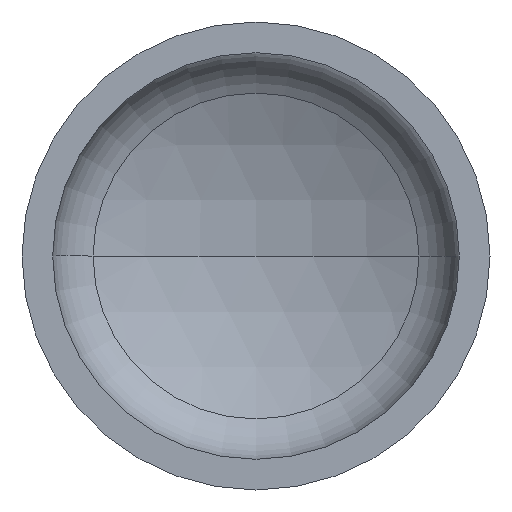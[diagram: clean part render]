
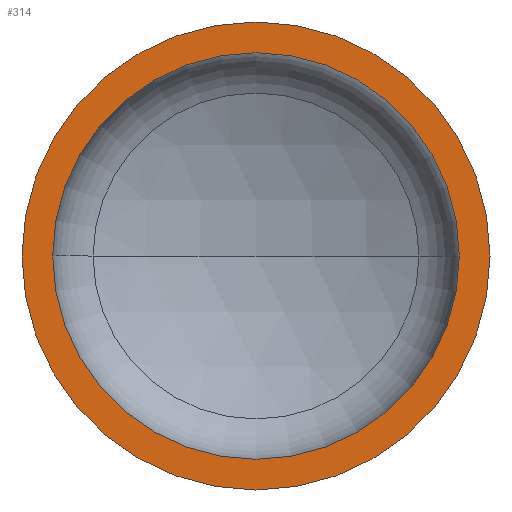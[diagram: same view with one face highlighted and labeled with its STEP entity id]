
A CAD part, front view. The second image highlights one B-rep face of the part: STEP entity #314.
In plain terms, the highlighted planar face has unit normal (0, -1, 0).
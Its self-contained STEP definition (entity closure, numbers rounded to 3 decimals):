
#2 = AXIS2_PLACEMENT_3D ( 'NONE', #288, #116, #312 ) ;
#3 = EDGE_LOOP ( 'NONE', ( #63, #30 ) ) ;
#7 = AXIS2_PLACEMENT_3D ( 'NONE', #274, #44, #53 ) ;
#11 = ORIENTED_EDGE ( 'NONE', *, *, #369, .F. ) ;
#15 = AXIS2_PLACEMENT_3D ( 'NONE', #311, #114, #277 ) ;
#30 = ORIENTED_EDGE ( 'NONE', *, *, #93, .T. ) ;
#44 = DIRECTION ( 'NONE',  ( 0., -1., 0. ) ) ;
#53 = DIRECTION ( 'NONE',  ( 1., 0., 0. ) ) ;
#57 = CIRCLE ( 'NONE', #70, 900. ) ;
#59 = EDGE_LOOP ( 'NONE', ( #89, #11 ) ) ;
#63 = ORIENTED_EDGE ( 'NONE', *, *, #399, .T. ) ;
#69 = AXIS2_PLACEMENT_3D ( 'NONE', #368, #363, #149 ) ;
#70 = AXIS2_PLACEMENT_3D ( 'NONE', #207, #357, #355 ) ;
#89 = ORIENTED_EDGE ( 'NONE', *, *, #94, .F. ) ;
#93 = EDGE_CURVE ( 'NONE', #157, #132, #57, .T. ) ;
#94 = EDGE_CURVE ( 'NONE', #118, #159, #189, .T. ) ;
#114 = DIRECTION ( 'NONE',  ( 0., 1., 0. ) ) ;
#116 = DIRECTION ( 'NONE',  ( 0., -1., 0. ) ) ;
#118 = VERTEX_POINT ( 'NONE', #298 ) ;
#132 = VERTEX_POINT ( 'NONE', #217 ) ;
#149 = DIRECTION ( 'NONE',  ( 1., 0., 0. ) ) ;
#157 = VERTEX_POINT ( 'NONE', #267 ) ;
#159 = VERTEX_POINT ( 'NONE', #211 ) ;
#189 = CIRCLE ( 'NONE', #69, 782. ) ;
#200 = CIRCLE ( 'NONE', #7, 782. ) ;
#207 = CARTESIAN_POINT ( 'NONE',  ( 0., 0., 0. ) ) ;
#211 = CARTESIAN_POINT ( 'NONE',  ( -782., 0., 0. ) ) ;
#213 = FACE_OUTER_BOUND ( 'NONE', #3, .T. ) ;
#217 = CARTESIAN_POINT ( 'NONE',  ( 900., 0., 0. ) ) ;
#222 = FACE_BOUND ( 'NONE', #59, .T. ) ;
#267 = CARTESIAN_POINT ( 'NONE',  ( -900., 0., 0. ) ) ;
#274 = CARTESIAN_POINT ( 'NONE',  ( 0., 0., 0. ) ) ;
#277 = DIRECTION ( 'NONE',  ( -1., 0., 0. ) ) ;
#285 = PLANE ( 'NONE',  #15 ) ;
#288 = CARTESIAN_POINT ( 'NONE',  ( 0., 0., 0. ) ) ;
#298 = CARTESIAN_POINT ( 'NONE',  ( 782., 0., 0. ) ) ;
#311 = CARTESIAN_POINT ( 'NONE',  ( -900., 0., 0. ) ) ;
#312 = DIRECTION ( 'NONE',  ( 1., 0., 0. ) ) ;
#314 = ADVANCED_FACE ( 'NONE', ( #222, #213 ), #285, .F. ) ;
#355 = DIRECTION ( 'NONE',  ( 1., 0., 0. ) ) ;
#357 = DIRECTION ( 'NONE',  ( 0., -1., 0. ) ) ;
#363 = DIRECTION ( 'NONE',  ( 0., -1., 0. ) ) ;
#368 = CARTESIAN_POINT ( 'NONE',  ( 0., 0., 0. ) ) ;
#369 = EDGE_CURVE ( 'NONE', #159, #118, #200, .T. ) ;
#373 = CIRCLE ( 'NONE', #2, 900. ) ;
#399 = EDGE_CURVE ( 'NONE', #132, #157, #373, .T. ) ;
